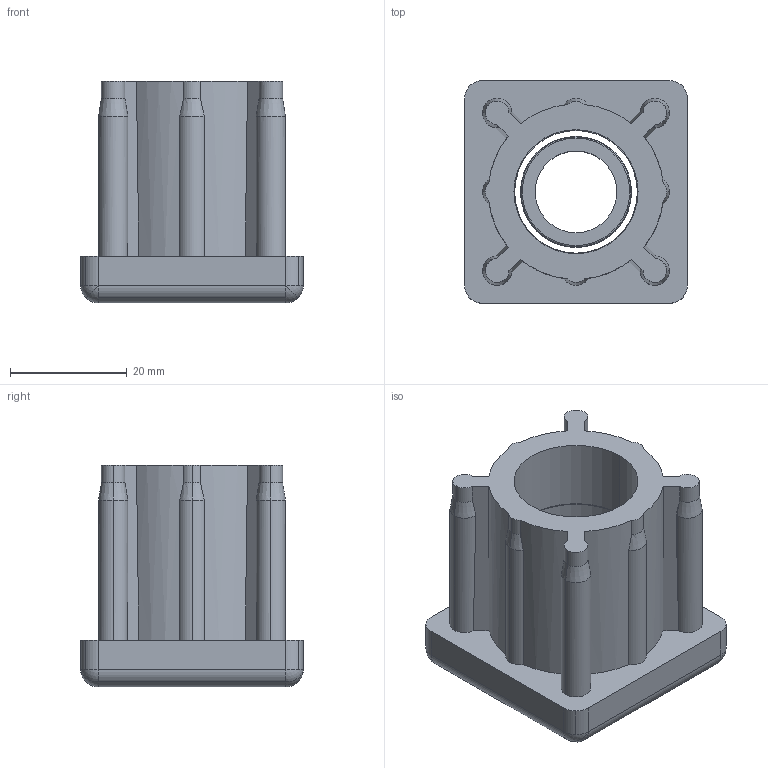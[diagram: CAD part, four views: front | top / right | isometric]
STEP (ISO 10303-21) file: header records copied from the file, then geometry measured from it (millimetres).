
FILE_DESCRIPTION (( 'STEP AP214' ), '1' );
FILE_NAME ('42006860514.STEP', '2020-02-26T11:35:37', ( '' ), ( '' ), 'SwSTEP 2.0', 'SolidWorks 2018', '' );
FILE_SCHEMA (( 'AUTOMOTIVE_DESIGN' ));
Length unit declared in the file: millimetre
Products named in the file (4): BC_M14.stp; Component1.stp; 42006860514; 42006860514.stp
Assembly tree (3 placements, depth 3):
  42006860514
    42006860514.stp
      Component1.stp
      BC_M14.stp
Bounding box: 38.1 x 38.1 x 38 mm (x, y, z)
Volume: 22253.3 mm3; surface area: 12095.8 mm2
Topology: 2 solids, 2 shells, 129 faces, 312 edges, 190 vertices
Faces by surface type: cylinder 70, cone 26, plane 19, sphere 8, torus 6
Entity records: 3974 total; most frequent: CARTESIAN_POINT 746, DIRECTION 724, ORIENTED_EDGE 624, EDGE_CURVE 312, AXIS2_PLACEMENT_3D 308, VERTEX_POINT 190, CIRCLE 172, EDGE_LOOP 136
